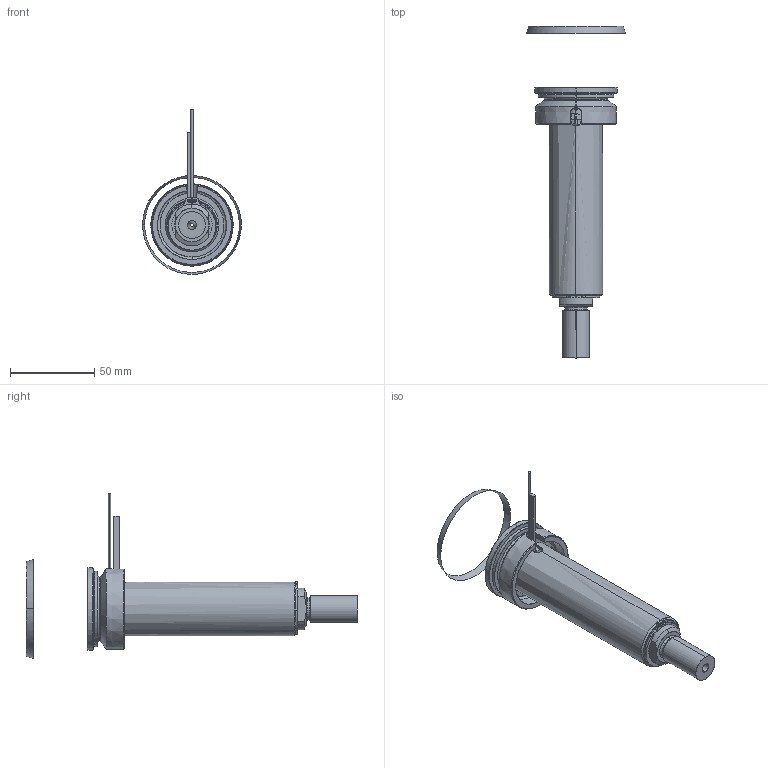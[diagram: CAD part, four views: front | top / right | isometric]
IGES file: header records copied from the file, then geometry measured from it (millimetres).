
Start section: SolidWorks IGES file using analytic representation for surfaces
Global section: file name: C:\Documents and Settings\ws-20\Desktop\TEMPORANEA\UGBE5003-S-A-P-3 [Ød-2.0 P-25 ØC-12].IGS; native system: SolidWorks 2012; preprocessor: SolidWorks 2012; author: ws-20; date: 120306.145639; units: millimetre
Bounding box: 58.79 x 197.44 x 98.01 mm (x, y, z)
Surface area: 53093.9 mm2 (no closed solid volume)
Topology: 0 solids, 0 shells, 111 faces, 2122 edges, 2122 vertices
Faces by surface type: revolution 67, bspline 44
